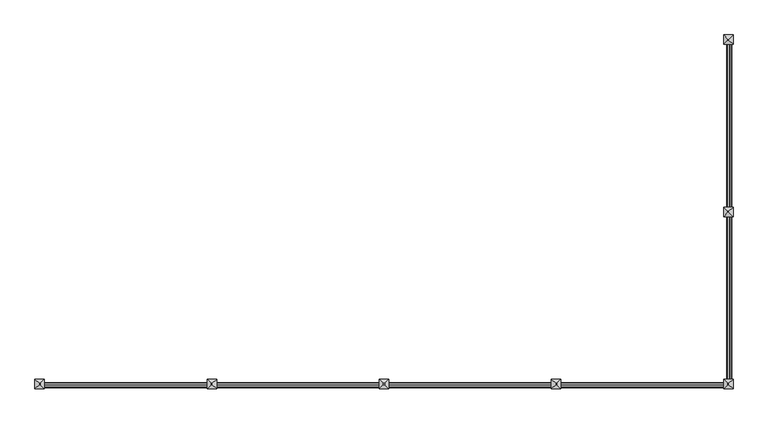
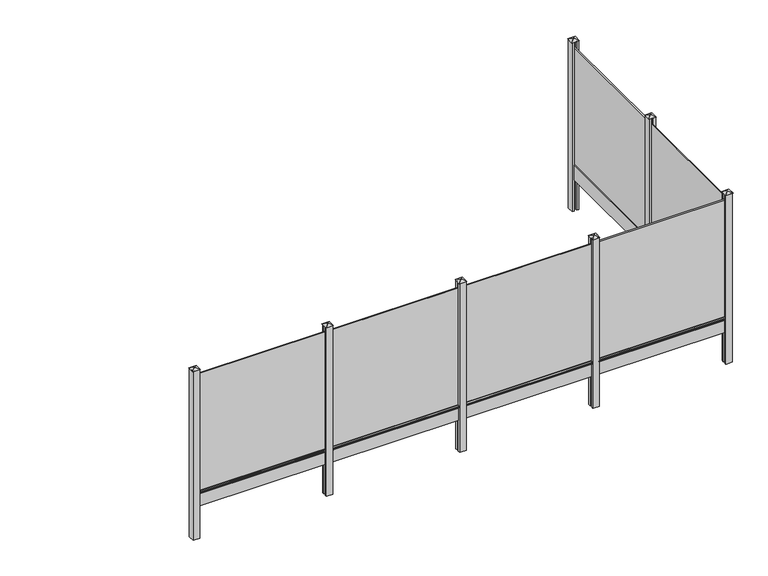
"""IFC4 building model written with IfcOpenShell, lengths in millimetres: railing geometry, Mehat - Railing - Plaque de Soubassement - Classique pour clôture rigide - 200x25x3.5 cm."""

from ifc_helpers import new_model, si_unit, point, frame, frame_2d, origin, origin_with_axes, place, context, project, spatial, polyline, circle_curve, trimmed, segment, composite_curve, outline, extrude, faceted_brep, source, transform, mapped, element, save


def railing_bce27265(model_context):
    return source(origin(), model_context, "Body", "SolidModel", [
        extrude(outline(polyline([(219896.2516516, -11327.4943936), (219879.2516516, -11327.4943936), (219879.2516516, -9327.4943936), (219896.2516516, -9327.4943936), (219896.2516516, -11327.4943936)])), frame((0.0, 0.0, 250.0), z_axis=(0.0, 0.0, 1.0), x_axis=(1.0, 0.0, 0.0)), (0.0, 0.0, 1.0), 1900.0),
        extrude(outline(polyline([(219905.2516516, -11327.4943936), (219870.2516516, -11327.4943936), (219870.2516516, -9327.4943936), (219905.2516516, -9327.4943936), (219905.2516516, -11327.4943936)])), origin_with_axes(), (0.0, 0.0, 1.0), 250.0),
        extrude(outline(composite_curve([segment(polyline([(210.0, 219905.2516516), (217.1937129, 219926.8327905)]), True, "CONTINUOUS"), segment(trimmed(circle_curve(frame_2d((221.9371294, 219925.2516516)), 5.0), [point((217.1937129, 219926.8327905))], [point((221.9371294, 219930.2516516))], False, "CARTESIAN"), True, "CONTINUOUS"), segment(polyline([(221.9371294, 219930.2516516), (238.0628706, 219930.2516516)]), True, "CONTINUOUS"), segment(trimmed(circle_curve(frame_2d((238.0628706, 219925.2516516)), 5.0), [point((238.0628706, 219930.2516516))], [point((242.8062871, 219926.8327905))], False, "CARTESIAN"), True, "CONTINUOUS"), segment(polyline([(242.8062871, 219926.8327905), (250.0, 219905.2516516), (210.0, 219905.2516516)]), True, "CONTINUOUS")], self_intersect=False)), frame((0.0, -11302.4943936, 0.0), z_axis=(0.0, 1.0, 0.0), x_axis=(0.0, 0.0, 1.0)), (0.0, 0.0, 1.0), 1950.0),
        extrude(outline(polyline([(219937.7516516, -11402.4943936), (219905.2516516, -11402.4943936), (219905.2516516, -11377.4943936), (219870.2516516, -11377.4943936), (219870.2516516, -11402.4943936), (219837.7516516, -11402.4943936), (219837.7516516, -11302.4943936), (219870.2516516, -11302.4943936), (219870.2516516, -11327.4943936), (219905.2516516, -11327.4943936), (219905.2516516, -11302.4943936), (219937.7516516, -11302.4943936), (219937.7516516, -11402.4943936)])), frame((0.0, 0.0, -500.0), z_axis=(0.0, 0.0, 1.0), x_axis=(1.0, 0.0, 0.0)), (0.0, 0.0, 1.0), 2750.0),
        faceted_brep([(219881.3471055, -11346.1443936, 2275.4), (219881.3471055, -11358.8443936, 2275.4), (219894.0471055, -11358.8443936, 2275.4), (219894.0471055, -11346.1443936, 2275.4), (219831.4016516, -11296.1443936, 2250.0), (219944.1016516, -11296.1443936, 2250.0), (219944.1016516, -11408.8443936, 2250.0), (219831.4016516, -11408.8443936, 2250.0)], [[[0, 1, 2, 3]], [[4, 5, 6, 7]], [[4, 0, 3, 5]], [[5, 3, 2, 6]], [[6, 2, 1, 7]], [[7, 1, 0, 4]]]),
        extrude(outline(polyline([(219896.2516516, -13377.4943936), (219879.2516516, -13377.4943936), (219879.2516516, -11377.4943936), (219896.2516516, -11377.4943936), (219896.2516516, -13377.4943936)])), frame((0.0, 0.0, 250.0), z_axis=(0.0, 0.0, 1.0), x_axis=(1.0, 0.0, 0.0)), (0.0, 0.0, 1.0), 1900.0),
        extrude(outline(polyline([(219905.2516516, -13377.4943936), (219870.2516516, -13377.4943936), (219870.2516516, -11377.4943936), (219905.2516516, -11377.4943936), (219905.2516516, -13377.4943936)])), origin_with_axes(), (0.0, 0.0, 1.0), 250.0),
        extrude(outline(composite_curve([segment(polyline([(210.0, 219905.2516516), (217.1937129, 219926.8327905)]), True, "CONTINUOUS"), segment(trimmed(circle_curve(frame_2d((221.9371294, 219925.2516516)), 5.0), [point((217.1937129, 219926.8327905))], [point((221.9371294, 219930.2516516))], False, "CARTESIAN"), True, "CONTINUOUS"), segment(polyline([(221.9371294, 219930.2516516), (238.0628706, 219930.2516516)]), True, "CONTINUOUS"), segment(trimmed(circle_curve(frame_2d((238.0628706, 219925.2516516)), 5.0), [point((238.0628706, 219930.2516516))], [point((242.8062871, 219926.8327905))], False, "CARTESIAN"), True, "CONTINUOUS"), segment(polyline([(242.8062871, 219926.8327905), (250.0, 219905.2516516), (210.0, 219905.2516516)]), True, "CONTINUOUS")], self_intersect=False)), frame((0.0, -13352.4943936, 0.0), z_axis=(0.0, 1.0, 0.0), x_axis=(0.0, 0.0, 1.0)), (0.0, 0.0, 1.0), 1950.0),
        extrude(outline(polyline([(217862.7516516, -13410.9943936), (217862.7516516, -13393.9943936), (219862.7516516, -13393.9943936), (219862.7516516, -13410.9943936), (217862.7516516, -13410.9943936)])), frame((0.0, 0.0, 250.0), z_axis=(0.0, 0.0, 1.0), x_axis=(1.0, 0.0, 0.0)), (0.0, 0.0, 1.0), 1900.0),
        extrude(outline(polyline([(217862.7516516, -13419.9943936), (217862.7516516, -13384.9943936), (219862.7516516, -13384.9943936), (219862.7516516, -13419.9943936), (217862.7516516, -13419.9943936)])), origin_with_axes(), (0.0, 0.0, 1.0), 250.0),
        extrude(outline(composite_curve([segment(polyline([(-13419.9943936, 210.0), (-13441.5755325, 217.1937129)]), True, "CONTINUOUS"), segment(trimmed(circle_curve(frame_2d((-13439.9943936, 221.9371294)), 5.0), [point((-13441.5755325, 217.1937129))], [point((-13444.9943936, 221.9371294))], False, "CARTESIAN"), True, "CONTINUOUS"), segment(polyline([(-13444.9943936, 221.9371294), (-13444.9943936, 238.0628706)]), True, "CONTINUOUS"), segment(trimmed(circle_curve(frame_2d((-13439.9943936, 238.0628706)), 5.0), [point((-13444.9943936, 238.0628706))], [point((-13441.5755325, 242.8062871))], False, "CARTESIAN"), True, "CONTINUOUS"), segment(polyline([(-13441.5755325, 242.8062871), (-13419.9943936, 250.0), (-13419.9943936, 210.0)]), True, "CONTINUOUS")], self_intersect=False)), frame((217887.7516516, 0.0, 0.0), z_axis=(1.0, 0.0, 0.0), x_axis=(0.0, 1.0, 0.0)), (0.0, 0.0, 1.0), 1950.0),
        extrude(outline(polyline([(217787.7516516, -13452.4943936), (217787.7516516, -13419.9943936), (217812.7516516, -13419.9943936), (217812.7516516, -13384.9943936), (217787.7516516, -13384.9943936), (217787.7516516, -13352.4943936), (217887.7516516, -13352.4943936), (217887.7516516, -13384.9943936), (217862.7516516, -13384.9943936), (217862.7516516, -13419.9943936), (217887.7516516, -13419.9943936), (217887.7516516, -13452.4943936), (217787.7516516, -13452.4943936)])), frame((0.0, 0.0, -500.0), z_axis=(0.0, 0.0, 1.0), x_axis=(1.0, 0.0, 0.0)), (0.0, 0.0, 1.0), 2750.0),
        faceted_brep([(217844.1016516, -13396.0898475, 2275.4), (217831.4016516, -13396.0898475, 2275.4), (217831.4016516, -13408.7898475, 2275.4), (217844.1016516, -13408.7898475, 2275.4), (217894.1016516, -13346.1443936, 2250.0), (217894.1016516, -13458.8443936, 2250.0), (217781.4016516, -13458.8443936, 2250.0), (217781.4016516, -13346.1443936, 2250.0)], [[[0, 1, 2, 3]], [[4, 5, 6, 7]], [[4, 0, 3, 5]], [[5, 3, 2, 6]], [[6, 2, 1, 7]], [[7, 1, 0, 4]]]),
        extrude(outline(polyline([(215812.7516516, -13410.9943936), (215812.7516516, -13393.9943936), (217812.7516516, -13393.9943936), (217812.7516516, -13410.9943936), (215812.7516516, -13410.9943936)])), frame((0.0, 0.0, 250.0), z_axis=(0.0, 0.0, 1.0), x_axis=(1.0, 0.0, 0.0)), (0.0, 0.0, 1.0), 1900.0),
        extrude(outline(polyline([(215812.7516516, -13419.9943936), (215812.7516516, -13384.9943936), (217812.7516516, -13384.9943936), (217812.7516516, -13419.9943936), (215812.7516516, -13419.9943936)])), origin_with_axes(), (0.0, 0.0, 1.0), 250.0),
        extrude(outline(composite_curve([segment(polyline([(-13419.9943936, 210.0), (-13441.5755325, 217.1937129)]), True, "CONTINUOUS"), segment(trimmed(circle_curve(frame_2d((-13439.9943936, 221.9371294)), 5.0), [point((-13441.5755325, 217.1937129))], [point((-13444.9943936, 221.9371294))], False, "CARTESIAN"), True, "CONTINUOUS"), segment(polyline([(-13444.9943936, 221.9371294), (-13444.9943936, 238.0628706)]), True, "CONTINUOUS"), segment(trimmed(circle_curve(frame_2d((-13439.9943936, 238.0628706)), 5.0), [point((-13444.9943936, 238.0628706))], [point((-13441.5755325, 242.8062871))], False, "CARTESIAN"), True, "CONTINUOUS"), segment(polyline([(-13441.5755325, 242.8062871), (-13419.9943936, 250.0), (-13419.9943936, 210.0)]), True, "CONTINUOUS")], self_intersect=False)), frame((215837.7516516, 0.0, 0.0), z_axis=(1.0, 0.0, 0.0), x_axis=(0.0, 1.0, 0.0)), (0.0, 0.0, 1.0), 1950.0),
        extrude(outline(polyline([(215737.7516516, -13452.4943936), (215737.7516516, -13419.9943936), (215762.7516516, -13419.9943936), (215762.7516516, -13384.9943936), (215737.7516516, -13384.9943936), (215737.7516516, -13352.4943936), (215837.7516516, -13352.4943936), (215837.7516516, -13384.9943936), (215812.7516516, -13384.9943936), (215812.7516516, -13419.9943936), (215837.7516516, -13419.9943936), (215837.7516516, -13452.4943936), (215737.7516516, -13452.4943936)])), frame((0.0, 0.0, -500.0), z_axis=(0.0, 0.0, 1.0), x_axis=(1.0, 0.0, 0.0)), (0.0, 0.0, 1.0), 2750.0),
        faceted_brep([(215794.1016516, -13396.0898475, 2275.4), (215781.4016516, -13396.0898475, 2275.4), (215781.4016516, -13408.7898475, 2275.4), (215794.1016516, -13408.7898475, 2275.4), (215844.1016516, -13346.1443936, 2250.0), (215844.1016516, -13458.8443936, 2250.0), (215731.4016516, -13458.8443936, 2250.0), (215731.4016516, -13346.1443936, 2250.0)], [[[0, 1, 2, 3]], [[4, 5, 6, 7]], [[4, 0, 3, 5]], [[5, 3, 2, 6]], [[6, 2, 1, 7]], [[7, 1, 0, 4]]]),
        extrude(outline(polyline([(213762.7516516, -13410.9943936), (213762.7516516, -13393.9943936), (215762.7516516, -13393.9943936), (215762.7516516, -13410.9943936), (213762.7516516, -13410.9943936)])), frame((0.0, 0.0, 250.0), z_axis=(0.0, 0.0, 1.0), x_axis=(1.0, 0.0, 0.0)), (0.0, 0.0, 1.0), 1900.0),
        extrude(outline(polyline([(213762.7516516, -13419.9943936), (213762.7516516, -13384.9943936), (215762.7516516, -13384.9943936), (215762.7516516, -13419.9943936), (213762.7516516, -13419.9943936)])), origin_with_axes(), (0.0, 0.0, 1.0), 250.0),
        extrude(outline(composite_curve([segment(polyline([(-13419.9943936, 210.0), (-13441.5755325, 217.1937129)]), True, "CONTINUOUS"), segment(trimmed(circle_curve(frame_2d((-13439.9943936, 221.9371294)), 5.0), [point((-13441.5755325, 217.1937129))], [point((-13444.9943936, 221.9371294))], False, "CARTESIAN"), True, "CONTINUOUS"), segment(polyline([(-13444.9943936, 221.9371294), (-13444.9943936, 238.0628706)]), True, "CONTINUOUS"), segment(trimmed(circle_curve(frame_2d((-13439.9943936, 238.0628706)), 5.0), [point((-13444.9943936, 238.0628706))], [point((-13441.5755325, 242.8062871))], False, "CARTESIAN"), True, "CONTINUOUS"), segment(polyline([(-13441.5755325, 242.8062871), (-13419.9943936, 250.0), (-13419.9943936, 210.0)]), True, "CONTINUOUS")], self_intersect=False)), frame((213787.7516516, 0.0, 0.0), z_axis=(1.0, 0.0, 0.0), x_axis=(0.0, 1.0, 0.0)), (0.0, 0.0, 1.0), 1950.0),
        extrude(outline(polyline([(213687.7516516, -13452.4943936), (213687.7516516, -13419.9943936), (213712.7516516, -13419.9943936), (213712.7516516, -13384.9943936), (213687.7516516, -13384.9943936), (213687.7516516, -13352.4943936), (213787.7516516, -13352.4943936), (213787.7516516, -13384.9943936), (213762.7516516, -13384.9943936), (213762.7516516, -13419.9943936), (213787.7516516, -13419.9943936), (213787.7516516, -13452.4943936), (213687.7516516, -13452.4943936)])), frame((0.0, 0.0, -500.0), z_axis=(0.0, 0.0, 1.0), x_axis=(1.0, 0.0, 0.0)), (0.0, 0.0, 1.0), 2750.0),
        faceted_brep([(213744.1016516, -13396.0898475, 2275.4), (213731.4016516, -13396.0898475, 2275.4), (213731.4016516, -13408.7898475, 2275.4), (213744.1016516, -13408.7898475, 2275.4), (213794.1016516, -13346.1443936, 2250.0), (213794.1016516, -13458.8443936, 2250.0), (213681.4016516, -13458.8443936, 2250.0), (213681.4016516, -13346.1443936, 2250.0)], [[[0, 1, 2, 3]], [[4, 5, 6, 7]], [[4, 0, 3, 5]], [[5, 3, 2, 6]], [[6, 2, 1, 7]], [[7, 1, 0, 4]]]),
        extrude(outline(polyline([(211712.7516516, -13410.9943936), (211712.7516516, -13393.9943936), (213712.7516516, -13393.9943936), (213712.7516516, -13410.9943936), (211712.7516516, -13410.9943936)])), frame((0.0, 0.0, 250.0), z_axis=(0.0, 0.0, 1.0), x_axis=(1.0, 0.0, 0.0)), (0.0, 0.0, 1.0), 1900.0),
        extrude(outline(polyline([(211712.7516516, -13419.9943936), (211712.7516516, -13384.9943936), (213712.7516516, -13384.9943936), (213712.7516516, -13419.9943936), (211712.7516516, -13419.9943936)])), origin_with_axes(), (0.0, 0.0, 1.0), 250.0),
        extrude(outline(composite_curve([segment(polyline([(-13419.9943936, 210.0), (-13441.5755325, 217.1937129)]), True, "CONTINUOUS"), segment(trimmed(circle_curve(frame_2d((-13439.9943936, 221.9371294)), 5.0), [point((-13441.5755325, 217.1937129))], [point((-13444.9943936, 221.9371294))], False, "CARTESIAN"), True, "CONTINUOUS"), segment(polyline([(-13444.9943936, 221.9371294), (-13444.9943936, 238.0628706)]), True, "CONTINUOUS"), segment(trimmed(circle_curve(frame_2d((-13439.9943936, 238.0628706)), 5.0), [point((-13444.9943936, 238.0628706))], [point((-13441.5755325, 242.8062871))], False, "CARTESIAN"), True, "CONTINUOUS"), segment(polyline([(-13441.5755325, 242.8062871), (-13419.9943936, 250.0), (-13419.9943936, 210.0)]), True, "CONTINUOUS")], self_intersect=False)), frame((211737.7516516, 0.0, 0.0), z_axis=(1.0, 0.0, 0.0), x_axis=(0.0, 1.0, 0.0)), (0.0, 0.0, 1.0), 1950.0),
        extrude(outline(polyline([(219837.7516516, -13452.4943936), (219837.7516516, -13419.9943936), (219862.7516516, -13419.9943936), (219862.7516516, -13384.9943936), (219837.7516516, -13384.9943936), (219837.7516516, -13352.4943936), (219870.2516516, -13352.4943936), (219870.2516516, -13377.4943936), (219905.2516516, -13377.4943936), (219905.2516516, -13352.4943936), (219937.7516516, -13352.4943936), (219937.7516516, -13452.4943936), (219837.7516516, -13452.4943936)])), frame((0.0, 0.0, -500.0), z_axis=(0.0, 0.0, 1.0), x_axis=(1.0, 0.0, 0.0)), (0.0, 0.0, 1.0), 2750.0),
        faceted_brep([(219894.1016516, -13396.0898475, 2275.4), (219881.4016516, -13396.0898475, 2275.4), (219881.4016516, -13408.7898475, 2275.4), (219894.1016516, -13408.7898475, 2275.4), (219944.1016516, -13346.1443936, 2250.0), (219944.1016516, -13458.8443936, 2250.0), (219831.4016516, -13458.8443936, 2250.0), (219831.4016516, -13346.1443936, 2250.0)], [[[0, 1, 2, 3]], [[4, 5, 6, 7]], [[4, 0, 3, 5]], [[5, 3, 2, 6]], [[6, 2, 1, 7]], [[7, 1, 0, 4]]]),
        extrude(outline(polyline([(219937.7516516, -9352.4943936), (219905.2516516, -9352.4943936), (219905.2516516, -9327.4943936), (219870.2516516, -9327.4943936), (219870.2516516, -9352.4943936), (219837.7516516, -9352.4943936), (219837.7516516, -9252.4943936), (219937.7516516, -9252.4943936), (219937.7516516, -9352.4943936)])), frame((0.0, 0.0, -500.0), z_axis=(0.0, 0.0, 1.0), x_axis=(1.0, 0.0, 0.0)), (0.0, 0.0, 1.0), 2750.0),
        faceted_brep([(219881.3471055, -9296.1443936, 2275.4), (219881.3471055, -9308.8443936, 2275.4), (219894.0471055, -9308.8443936, 2275.4), (219894.0471055, -9296.1443936, 2275.4), (219831.4016516, -9246.1443936, 2250.0), (219944.1016516, -9246.1443936, 2250.0), (219944.1016516, -9358.8443936, 2250.0), (219831.4016516, -9358.8443936, 2250.0)], [[[0, 1, 2, 3]], [[4, 5, 6, 7]], [[4, 0, 3, 5]], [[5, 3, 2, 6]], [[6, 2, 1, 7]], [[7, 1, 0, 4]]]),
        extrude(outline(polyline([(211637.7516516, -13452.4943936), (211637.7516516, -13352.4943936), (211737.7516516, -13352.4943936), (211737.7516516, -13384.9943936), (211712.7516516, -13384.9943936), (211712.7516516, -13419.9943936), (211737.7516516, -13419.9943936), (211737.7516516, -13452.4943936), (211637.7516516, -13452.4943936)])), frame((0.0, 0.0, -500.0), z_axis=(0.0, 0.0, 1.0), x_axis=(1.0, 0.0, 0.0)), (0.0, 0.0, 1.0), 2750.0),
        faceted_brep([(211694.1016516, -13396.0898475, 2275.4), (211681.4016516, -13396.0898475, 2275.4), (211681.4016516, -13408.7898475, 2275.4), (211694.1016516, -13408.7898475, 2275.4), (211744.1016516, -13346.1443936, 2250.0), (211744.1016516, -13458.8443936, 2250.0), (211631.4016516, -13458.8443936, 2250.0), (211631.4016516, -13346.1443936, 2250.0)], [[[0, 1, 2, 3]], [[4, 5, 6, 7]], [[4, 0, 3, 5]], [[5, 3, 2, 6]], [[6, 2, 1, 7]], [[7, 1, 0, 4]]]),
    ])


if __name__ == "__main__":
    model = new_model("IFC4")
    model_context = context("Model", 3, world=origin())
    ifc_project = project(units=[si_unit("LENGTHUNIT", "METRE", prefix="MILLI")], contexts=[model_context])
    site = spatial("IfcSite", under=ifc_project)
    building = spatial("IfcBuilding", under=site)
    placement = place(None, origin())
    railing_shape = railing_bce27265(model_context)
    element("IfcRailing", 1, ObjectType="Mehat - Railing - Plaque de Soubassement - Classique pour clôture rigide - 200x25x3.5 cm", at=placement, inside=building, context=model_context, shape_type="MappedRepresentation", body=[
        mapped(railing_shape, transform((0.0, 0.0, 0.0), x_axis=(1.0, 0.0, 0.0), y_axis=(0.0, 1.0, 0.0), z_axis=(0.0, 0.0, 1.0))),
    ])
    save(model, "model.ifc")
